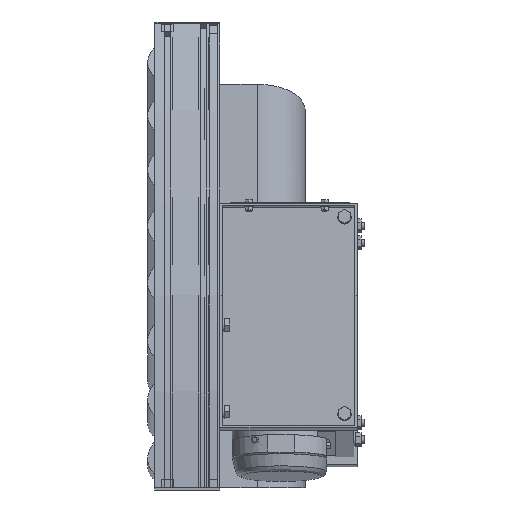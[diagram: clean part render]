
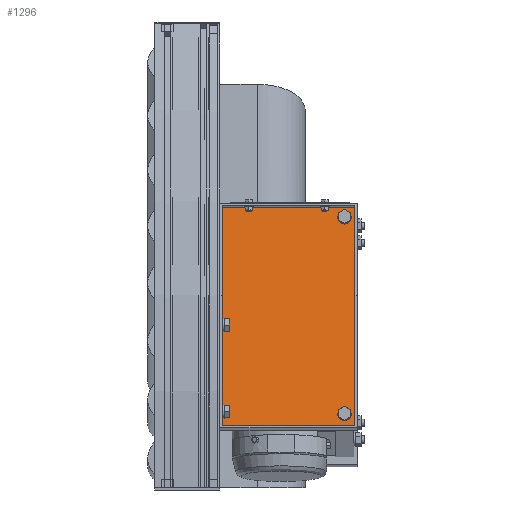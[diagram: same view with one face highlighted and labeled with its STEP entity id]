
A CAD part, left-side view. The second image highlights one B-rep face of the part: STEP entity #1296.
In plain terms, the highlighted planar face has unit normal (-0.991, 0, 0.131).
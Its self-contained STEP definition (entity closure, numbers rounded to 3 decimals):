
#1296=ADVANCED_FACE('',(#5780,#5781,#5782),#5779,.T.);
#5779=PLANE('',#15854);
#5780=FACE_OUTER_BOUND('',#15855,.T.);
#5781=FACE_BOUND('',#15856,.T.);
#5782=FACE_BOUND('',#15857,.T.);
#15851=CARTESIAN_POINT('',(-179.934,-296.8,72.952));
#15852=DIRECTION('',(-0.991,0.,0.131));
#15853=DIRECTION('',(0.131,0.,0.991));
#15854=AXIS2_PLACEMENT_3D('',#15851,#15852,#15853);
#15855=EDGE_LOOP('',(#21988,#21989,#21990,#21991));
#15856=EDGE_LOOP('',(#21992,#21993));
#15857=EDGE_LOOP('',(#21994,#21995));
#21988=ORIENTED_EDGE('',*,*,#26682,.F.);
#21989=ORIENTED_EDGE('',*,*,#26683,.F.);
#21990=ORIENTED_EDGE('',*,*,#26684,.F.);
#21991=ORIENTED_EDGE('',*,*,#26685,.F.);
#21992=ORIENTED_EDGE('',*,*,#26686,.T.);
#21993=ORIENTED_EDGE('',*,*,#26687,.T.);
#21994=ORIENTED_EDGE('',*,*,#26688,.T.);
#21995=ORIENTED_EDGE('',*,*,#26689,.T.);
#26682=EDGE_CURVE('',#34308,#34309,#34310,.T.);
#26683=EDGE_CURVE('',#34316,#34308,#34317,.T.);
#26684=EDGE_CURVE('',#34323,#34316,#34324,.T.);
#26685=EDGE_CURVE('',#34309,#34323,#34330,.T.);
#26686=EDGE_CURVE('',#34336,#34337,#34338,.T.);
#26687=EDGE_CURVE('',#34337,#34336,#34344,.T.);
#26688=EDGE_CURVE('',#34350,#34351,#34352,.T.);
#26689=EDGE_CURVE('',#34351,#34350,#34358,.T.);
#34308=VERTEX_POINT('',#50467);
#34309=VERTEX_POINT('',#50468);
#34310=LINE('',#50469,#50470);
#34316=VERTEX_POINT('',#50472);
#34317=LINE('',#50473,#50474);
#34323=VERTEX_POINT('',#50476);
#34324=LINE('',#50477,#50478);
#34330=LINE('',#50480,#50481);
#34336=VERTEX_POINT('',#50483);
#34337=VERTEX_POINT('',#50484);
#34338=CIRCLE('',#50488,5.5);
#34344=CIRCLE('',#50492,5.5);
#34350=VERTEX_POINT('',#50493);
#34351=VERTEX_POINT('',#50494);
#34352=CIRCLE('',#50498,5.5);
#34358=CIRCLE('',#50502,5.5);
#50467=CARTESIAN_POINT('',(-138.349,-286.8,388.827));
#50468=CARTESIAN_POINT('',(-178.629,-286.8,82.867));
#50469=CARTESIAN_POINT('',(-138.349,-286.8,388.827));
#50470=VECTOR('',#50471,308.6);
#50471=DIRECTION('',(-0.131,0.,-0.991));
#50472=CARTESIAN_POINT('',(-138.349,-103.2,388.827));
#50473=CARTESIAN_POINT('',(-138.349,-103.2,388.827));
#50474=VECTOR('',#50475,183.6);
#50475=DIRECTION('',(0.,-1.,0.));
#50476=CARTESIAN_POINT('',(-178.629,-103.2,82.867));
#50477=CARTESIAN_POINT('',(-178.629,-103.2,82.867));
#50478=VECTOR('',#50479,308.6);
#50479=DIRECTION('',(0.131,0.,0.991));
#50480=CARTESIAN_POINT('',(-178.629,-286.8,82.867));
#50481=VECTOR('',#50482,183.6);
#50482=DIRECTION('',(0.,1.,0.));
#50483=CARTESIAN_POINT('',(-176.828,-272.5,96.549));
#50484=CARTESIAN_POINT('',(-175.392,-272.5,107.455));
#50485=CARTESIAN_POINT('',(-176.11,-272.5,102.002));
#50486=DIRECTION('',(0.991,0.,-0.131));
#50487=DIRECTION('',(-0.131,0.,-0.991));
#50488=AXIS2_PLACEMENT_3D('',#50485,#50486,#50487);
#50489=CARTESIAN_POINT('',(-176.11,-272.5,102.002));
#50490=DIRECTION('',(0.991,0.,-0.131));
#50491=DIRECTION('',(-0.131,0.,-0.991));
#50492=AXIS2_PLACEMENT_3D('',#50489,#50490,#50491);
#50493=CARTESIAN_POINT('',(-140.933,-272.5,369.196));
#50494=CARTESIAN_POINT('',(-139.497,-272.5,380.102));
#50495=CARTESIAN_POINT('',(-140.215,-272.5,374.649));
#50496=DIRECTION('',(0.991,0.,-0.131));
#50497=DIRECTION('',(-0.131,0.,-0.991));
#50498=AXIS2_PLACEMENT_3D('',#50495,#50496,#50497);
#50499=CARTESIAN_POINT('',(-140.215,-272.5,374.649));
#50500=DIRECTION('',(0.991,0.,-0.131));
#50501=DIRECTION('',(-0.131,0.,-0.991));
#50502=AXIS2_PLACEMENT_3D('',#50499,#50500,#50501);
